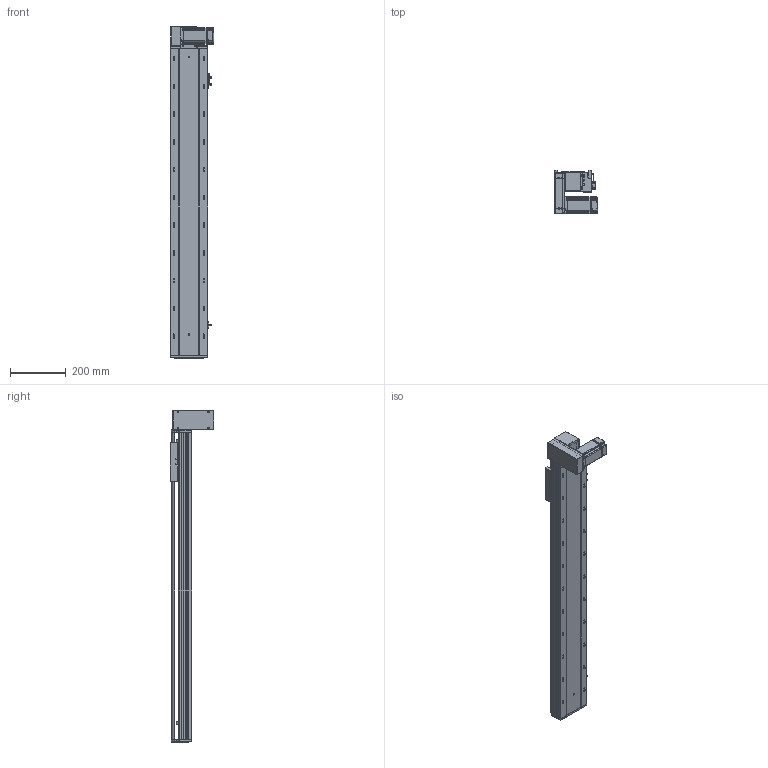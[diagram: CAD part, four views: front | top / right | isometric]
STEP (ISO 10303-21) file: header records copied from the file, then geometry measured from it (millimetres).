
FILE_DESCRIPTION (( 'STEP AP203' ), '1' );
FILE_NAME ('RY140-T-300-DL.SLDASM_850.step', '2021-03-01T06:06:12', ( '盈信电脑' ), ( '东莞市道滘镇水果街19号' ), 'SwSTEP 2.0', 'SolidWorks 2012', '' );
FILE_SCHEMA (( 'CONFIG_CONTROL_DESIGN' ));
Length unit declared in the file: millimetre
Products named in the file (18): 滅袉蝶18-10; RY140-T翋肮謫裔啣; RY140-T-300-DL.SLDASM_850; RY120-T蹟翐M4; RY140-T萇儂欶; RY120-T主同步轮轴承压盖; 15; RY140-T翋肮祭謫盓傅釱; 侂狟400W侜督萇儂; RY140-T萇儂假蚾啣; RY120外置感应片(140共用）; RY120-T肮祭湍揤踡輸2; 覜茼ん672; RY120-T肮祭湍揤踡輸1; RY140綴裔啣; RY140-T-300-DL倰第菁釱_850; RY140-T-300-DL倰第奻裔啣_850; RY140肮祭謫臏賑輸
Assembly tree (23 placements, depth 3):
  RY140-T-300-DL.SLDASM_850
    RY140-T-300-DL倰第菁釱_850
    RY140肮祭謫臏賑輸
    RY140-T-300-DL倰第奻裔啣_850
    RY140綴裔啣
    覜茼ん672  x3
    RY120外置感应片(140共用）
    RY120-T肮祭湍揤踡輸2
    RY120-T肮祭湍揤踡輸1
    RY140-T翋肮祭謫盓傅釱
    RY140-T萇儂假蚾啣
    侂狟400W侜督萇儂
      15
    RY120-T主同步轮轴承压盖
    RY120-T蹟翐M4  x4
    RY140-T萇儂欶
    滅袉蝶18-10  x2
    RY140-T翋肮謫裔啣
Bounding box: 157 x 158.5 x 1196 mm (x, y, z)
Volume: 3630888.9 mm3; surface area: 1379287 mm2
Topology: 22 solids, 22 shells, 2722 faces, 7510 edges, 4830 vertices
Faces by surface type: plane 1385, cylinder 1027, cone 210, bspline 100
Entity records: 86900 total; most frequent: CARTESIAN_POINT 21361, ORIENTED_EDGE 13524, DIRECTION 12776, EDGE_CURVE 6762, VERTEX_POINT 4429, VECTOR 4270, LINE 4270, AXIS2_PLACEMENT_3D 4253
